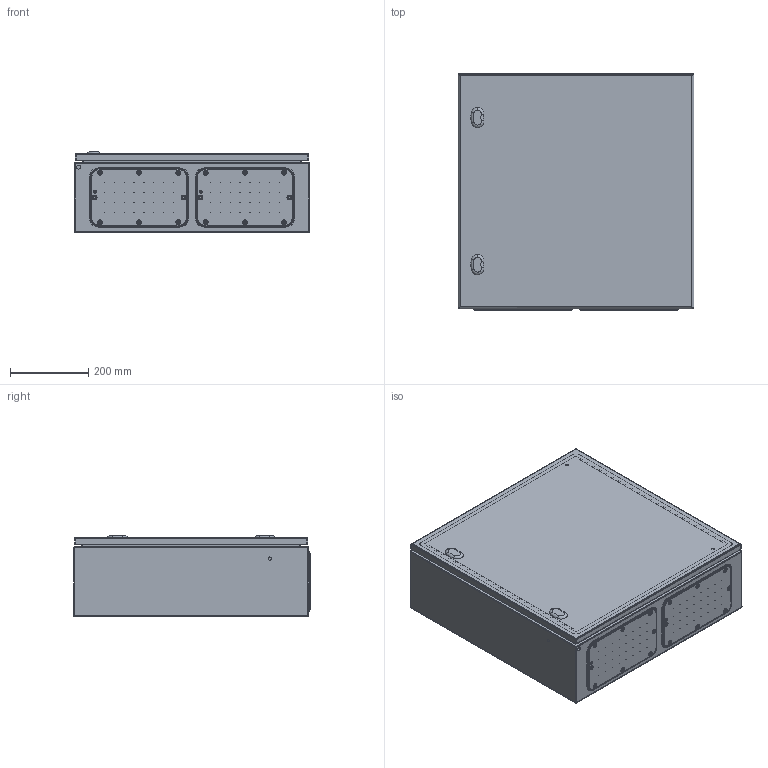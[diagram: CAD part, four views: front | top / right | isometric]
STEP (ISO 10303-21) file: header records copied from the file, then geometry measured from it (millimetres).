
FILE_DESCRIPTION (( 'STEP AP203' ), '1' );
FILE_NAME ('0600x0600x0200 dx.step', '2021-09-07T06:41:29', ( '' ), ( '' ), 'SwSTEP 2.0', 'SolidWorks 2021', '' );
FILE_SCHEMA (( 'CONFIG_CONTROL_DESIGN' ));
Length unit declared in the file: millimetre
Products named in the file (7): AR_ECOR_chiusura_std_STD; AR_ECOR_montaggio_porta_singola_0600x0600; AR_ECOR_involucro_0600x0600x0200; 0600x0600x0200 dx; AR_ECOR_Piastra_16; AR_ECOR_porta_singola_0600x0600; AR_ECOR_flangia IC_03
Assembly tree (8 placements, depth 3):
  0600x0600x0200 dx
    AR_ECOR_involucro_0600x0600x0200
    AR_ECOR_montaggio_porta_singola_0600x0600
      AR_ECOR_porta_singola_0600x0600
      AR_ECOR_chiusura_std_STD  x2
    AR_ECOR_flangia IC_03  x2
    AR_ECOR_Piastra_16
Bounding box: 600 x 604 x 205 mm (x, y, z)
Volume: 2753101.2 mm3; surface area: 3273522.4 mm2
Topology: 7 solids, 7 shells, 1013 faces, 2495 edges, 1574 vertices
Faces by surface type: cylinder 475, plane 284, cone 108, torus 78, bspline 52, sphere 16
Entity records: 23893 total; most frequent: CARTESIAN_POINT 4926, DIRECTION 4039, ORIENTED_EDGE 3632, EDGE_CURVE 1816, AXIS2_PLACEMENT_3D 1604, VERTEX_POINT 1156, EDGE_LOOP 968, CIRCLE 889
